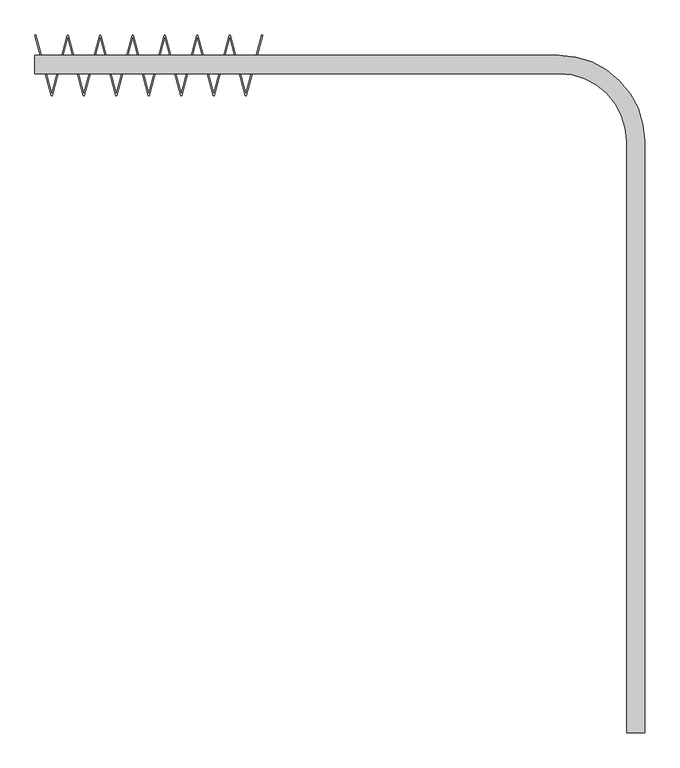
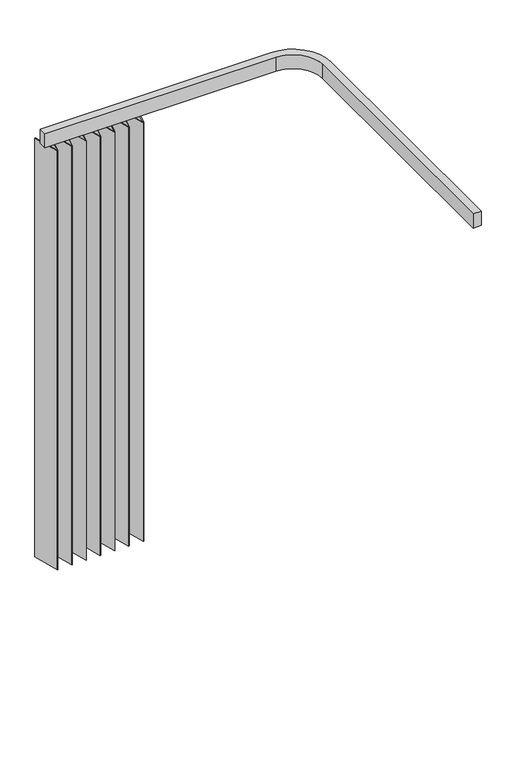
"""IFC4 building model written with IfcOpenShell, lengths in millimetres: furniture geometry, BIMHealth-Curtain_Doc_M-LOD2A-v1 : BIMHealth-Curtain_Doc_M-LOD2A-v1."""

from ifc_helpers import new_model, si_unit, point, frame, frame_2d, origin, place, context, project, spatial, polyline, circle_curve, trimmed, segment, composite_curve, outline, extrude, source, transform, mapped, element, save


def furniture_a2a9e1b6(model_context):
    return source(origin(), model_context, "Body", "SweptSolid", [
        extrude(outline(composite_curve([segment(polyline([(1160.0, -40.0), (0.0, -40.0), (0.0, 0.0), (1160.0, 0.0)]), True, "CONTINUOUS"), segment(trimmed(circle_curve(frame_2d((1160.0, -190.0)), 190.0), [point((1160.0, 0.0))], [point((1350.0, -190.0))], False, "CARTESIAN"), True, "CONTINUOUS"), segment(polyline([(1350.0, -190.0), (1350.0, -1500.0), (1310.0, -1500.0), (1310.0, -190.0)]), True, "CONTINUOUS"), segment(trimmed(circle_curve(frame_2d((1160.0, -190.0)), 150.0), [point((1310.0, -190.0))], [point((1160.0, -40.0))], True, "CARTESIAN"), True, "CONTINUOUS")], self_intersect=False)), frame((0.0, 0.0, 2325.0), z_axis=(0.0, 0.0, 1.0), x_axis=(1.0, 0.0, 0.0)), (0.0, 0.0, 1.0), 75.0),
        extrude(outline(polyline([(35.8630189, -88.8426086), (0.0, 45.0), (1.9318517, 45.5176381), (36.8982951, -84.9789053), (71.7260378, 45.0), (73.7965901, 45.0), (108.6243328, -84.9789053), (143.4520755, 45.0), (145.5226279, 45.0), (180.3503706, -84.9789053), (215.1781133, 45.0), (217.2486657, 45.0), (252.0764084, -84.9789053), (286.9041511, 45.0), (288.9747035, 45.0), (323.8024462, -84.9789053), (358.6301889, 45.0), (360.7007412, 45.0), (395.5284839, -84.9789053), (430.3562266, 45.0), (432.426779, 45.0), (467.2545217, -84.9789053), (502.2209651, 45.5176381), (504.1528168, 45.0), (468.2897979, -88.8426086), (466.2192455, -88.8426086), (431.3915028, 41.1362967), (396.5637601, -88.8426086), (394.4932078, -88.8426086), (359.665465, 41.1362967), (324.8377223, -88.8426086), (322.76717, -88.8426086), (287.9394273, 41.1362967), (253.1116846, -88.8426086), (251.0411322, -88.8426086), (216.2133895, 41.1362967), (181.3856468, -88.8426086), (179.3150944, -88.8426086), (144.4873517, 41.1362967), (109.659609, -88.8426086), (107.5890567, -88.8426086), (72.761314, 41.1362967), (37.9335712, -88.8426086), (35.8630189, -88.8426086)])), frame((0.0, 0.0, 100.0), z_axis=(0.0, 0.0, 1.0), x_axis=(1.0, 0.0, 0.0)), (0.0, 0.0, 1.0), 2225.0),
    ])


if __name__ == "__main__":
    model = new_model("IFC4")
    model_context = context("Model", 3, world=origin())
    ifc_project = project(units=[si_unit("LENGTHUNIT", "METRE", prefix="MILLI")], contexts=[model_context])
    site = spatial("IfcSite", under=ifc_project)
    building = spatial("IfcBuilding", under=site)
    placement = place(None, origin())
    furniture_shape = furniture_a2a9e1b6(model_context)
    element("IfcFurniture", 1, ObjectType="BIMHealth-Curtain_Doc_M-LOD2A-v1 : BIMHealth-Curtain_Doc_M-LOD2A-v1", at=placement, inside=building, context=model_context, shape_type="MappedRepresentation", body=[
        mapped(furniture_shape, transform((0.0, 0.0, 0.0), x_axis=(1.0, 0.0, 0.0), y_axis=(0.0, 1.0, 0.0), z_axis=(0.0, 0.0, 1.0))),
    ])
    save(model, "model.ifc")
